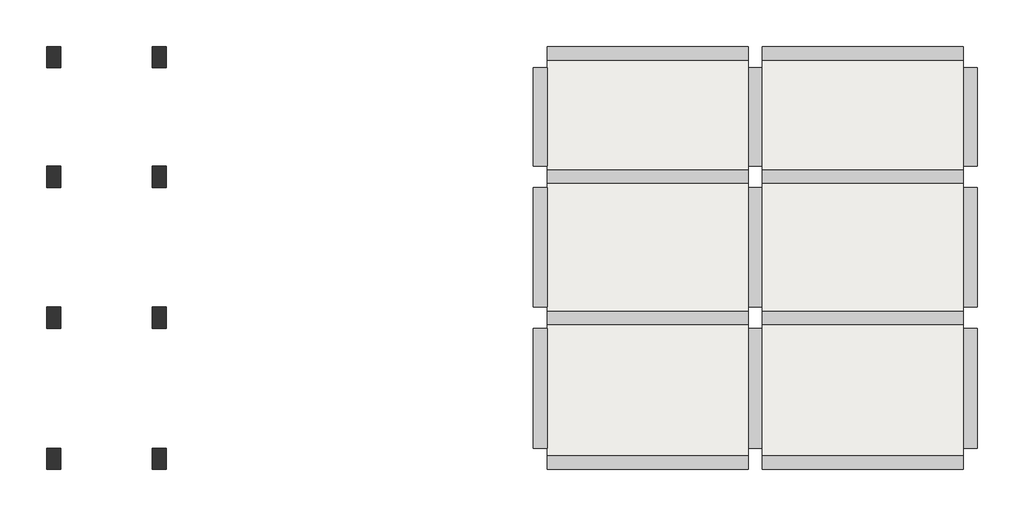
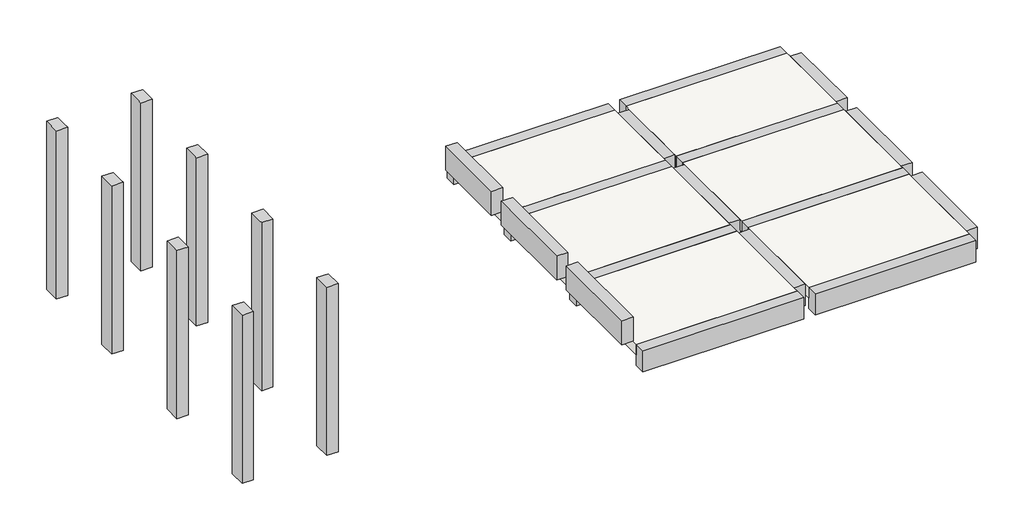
# One storey: 8 columns, 7 beams, 6 slabs.
"""IFC4 building model written with IfcOpenShell, lengths in millimetres."""

from ifc_helpers import new_model, si_unit, frame, origin, place, context, project, spatial, polyline, outline, extrude, faceted_brep, element, save

model = new_model("IFC4")

# Units and contexts
model_context = context("Model", 3, world=origin())
ifc_project = project(units=[si_unit("LENGTHUNIT", "METRE", prefix="MILLI")], contexts=[model_context])

# Site, building, storey
site = spatial("IfcSite", under=ifc_project)
building = spatial("IfcBuilding", under=site)
storey = spatial("IfcBuildingStorey", under=building, Name="BALDRAME", Elevation=1500.0)

# Beams
placement = place(None, origin())
element("IfcBeam", 1, ObjectType="TQS - Viga retangular : 20,0 x 40,0", at=placement, inside=storey, context=model_context, shape_type="Brep", body=[
    faceted_brep([(10150.0, 200.0, 1500.0), (10150.0, 0.0, 1500.0), (13000.0, 0.0, 1500.0), (13000.0, 200.0, 1500.0), (10150.0, 0.0, 1100.0), (13000.0, 0.0, 1100.0), (10150.0, 200.0, 1100.0), (13000.0, 200.0, 1100.0), (10150.0, 200.0, 1300.0), (13000.0, 200.0, 1300.0)], [[[0, 1, 2, 3]], [[1, 4, 5, 2]], [[4, 6, 7, 5]], [[6, 8, 0, 3, 9, 7]], [[1, 0, 8, 6, 4]], [[3, 2, 5, 7, 9]]]),
    faceted_brep([(7100.0, 0.0, 1500.0), (7100.0, 200.0, 1500.0), (7100.0, 200.0, 1300.0), (7100.0, 200.0, 1100.0), (7100.0, 0.0, 1100.0), (9950.0, 200.0, 1500.0), (9950.0, 0.0, 1500.0), (9950.0, 0.0, 1100.0), (9950.0, 200.0, 1100.0), (9950.0, 200.0, 1300.0)], [[[0, 1, 2, 3, 4]], [[5, 6, 7, 8, 9]], [[1, 0, 6, 5]], [[0, 4, 7, 6]], [[4, 3, 8, 7]], [[3, 2, 1, 5, 9, 8]]]),
])
element("IfcBeam", 2, ObjectType="TQS - Viga retangular : 20,0 x 40,0", at=placement, inside=storey, context=model_context, shape_type="Brep", body=[
    faceted_brep([(10150.0, 6000.0, 1500.0), (10150.0, 5800.0, 1500.0), (13000.0, 5800.0, 1500.0), (13000.0, 6000.0, 1500.0), (10150.0, 5800.0, 1300.0), (10150.0, 5800.0, 1100.0), (13000.0, 5800.0, 1100.0), (13000.0, 5800.0, 1300.0), (10150.0, 6000.0, 1100.0), (13000.0, 6000.0, 1100.0)], [[[0, 1, 2, 3]], [[1, 4, 5, 6, 7, 2]], [[5, 8, 9, 6]], [[8, 0, 3, 9]], [[1, 0, 8, 5, 4]], [[3, 2, 7, 6, 9]]]),
    faceted_brep([(7100.0, 5800.0, 1500.0), (7100.0, 6000.0, 1500.0), (7100.0, 6000.0, 1100.0), (7100.0, 5800.0, 1100.0), (7100.0, 5800.0, 1300.0), (9950.0, 6000.0, 1500.0), (9950.0, 5800.0, 1500.0), (9950.0, 5800.0, 1300.0), (9950.0, 5800.0, 1100.0), (9950.0, 6000.0, 1100.0)], [[[0, 1, 2, 3, 4]], [[5, 6, 7, 8, 9]], [[1, 0, 6, 5]], [[0, 4, 3, 8, 7, 6]], [[3, 2, 9, 8]], [[2, 1, 5, 9]]]),
])
element("IfcBeam", 3, ObjectType="TQS - Viga retangular : 20,0 x 40,0", at=placement, inside=storey, context=model_context, shape_type="SweptSolid", body=[
    extrude(outline(polyline([(13000.0, 5700.0), (13200.0, 5700.0), (13200.0, 4300.0), (13000.0, 4300.0), (13000.0, 5700.0)])), frame((0.0, 0.0, 1100.0), z_axis=(0.0, 0.0, 1.0), x_axis=(1.0, 0.0, 0.0)), (0.0, 0.0, 1.0), 400.0),
    extrude(outline(polyline([(13200.0, 300.0), (13000.0, 300.0), (13000.0, 2000.0), (13200.0, 2000.0), (13200.0, 300.0)])), frame((0.0, 0.0, 1100.0), z_axis=(0.0, 0.0, 1.0), x_axis=(1.0, 0.0, 0.0)), (0.0, 0.0, 1.0), 400.0),
    extrude(outline(polyline([(13200.0, 2300.0), (13000.0, 2300.0), (13000.0, 4000.0), (13200.0, 4000.0), (13200.0, 2300.0)])), frame((0.0, 0.0, 1100.0), z_axis=(0.0, 0.0, 1.0), x_axis=(1.0, 0.0, 0.0)), (0.0, 0.0, 1.0), 400.0),
])
element("IfcBeam", 4, ObjectType="TQS - Viga retangular : 20,0 x 40,0", at=placement, inside=storey, context=model_context, shape_type="Brep", body=[
    faceted_brep([(10150.0, 2250.0, 1500.0), (10150.0, 2050.0, 1500.0), (13000.0, 2050.0, 1500.0), (13000.0, 2250.0, 1500.0), (10150.0, 2050.0, 1300.0), (10150.0, 2050.0, 1100.0), (13000.0, 2050.0, 1100.0), (13000.0, 2050.0, 1300.0), (10150.0, 2250.0, 1100.0), (13000.0, 2250.0, 1100.0), (10150.0, 2250.0, 1300.0), (13000.0, 2250.0, 1300.0)], [[[0, 1, 2, 3]], [[1, 4, 5, 6, 7, 2]], [[5, 8, 9, 6]], [[8, 10, 0, 3, 11, 9]], [[1, 0, 10, 8, 5, 4]], [[3, 2, 7, 6, 9, 11]]]),
    faceted_brep([(7100.0, 2050.0, 1500.0), (7100.0, 2250.0, 1500.0), (7100.0, 2250.0, 1300.0), (7100.0, 2250.0, 1100.0), (7100.0, 2050.0, 1100.0), (7100.0, 2050.0, 1300.0), (9950.0, 2250.0, 1500.0), (9950.0, 2050.0, 1500.0), (9950.0, 2050.0, 1300.0), (9950.0, 2050.0, 1100.0), (9950.0, 2250.0, 1100.0), (9950.0, 2250.0, 1300.0)], [[[0, 1, 2, 3, 4, 5]], [[6, 7, 8, 9, 10, 11]], [[1, 0, 7, 6]], [[0, 5, 4, 9, 8, 7]], [[4, 3, 10, 9]], [[3, 2, 1, 6, 11, 10]]]),
])
element("IfcBeam", 5, ObjectType="TQS - Viga retangular : 20,0 x 40,0", at=placement, inside=storey, context=model_context, shape_type="Brep", body=[
    faceted_brep([(10150.0, 4255.0, 1500.0), (10150.0, 4055.0, 1500.0), (13000.0, 4055.0, 1500.0), (13000.0, 4255.0, 1500.0), (10150.0, 4055.0, 1300.0), (10150.0, 4055.0, 1100.0), (13000.0, 4055.0, 1100.0), (13000.0, 4055.0, 1300.0), (10150.0, 4255.0, 1100.0), (13000.0, 4255.0, 1100.0), (10150.0, 4255.0, 1300.0), (13000.0, 4255.0, 1300.0)], [[[0, 1, 2, 3]], [[1, 4, 5, 6, 7, 2]], [[5, 8, 9, 6]], [[8, 10, 0, 3, 11, 9]], [[1, 0, 10, 8, 5, 4]], [[3, 2, 7, 6, 9, 11]]]),
    faceted_brep([(7100.0, 4055.0, 1500.0), (7100.0, 4255.0, 1500.0), (7100.0, 4255.0, 1300.0), (7100.0, 4255.0, 1100.0), (7100.0, 4055.0, 1100.0), (7100.0, 4055.0, 1300.0), (9950.0, 4255.0, 1500.0), (9950.0, 4055.0, 1500.0), (9950.0, 4055.0, 1300.0), (9950.0, 4055.0, 1100.0), (9950.0, 4255.0, 1100.0), (9950.0, 4255.0, 1300.0)], [[[0, 1, 2, 3, 4, 5]], [[6, 7, 8, 9, 10, 11]], [[1, 0, 7, 6]], [[0, 5, 4, 9, 8, 7]], [[4, 3, 10, 9]], [[3, 2, 1, 6, 11, 10]]]),
])
element("IfcBeam", 6, ObjectType="TQS - Viga retangular : 20,0 x 40,0", at=placement, inside=storey, context=model_context, shape_type="SweptSolid", body=[
    extrude(outline(polyline([(9950.0, 5700.0), (10150.0, 5700.0), (10150.0, 4300.0), (9950.0, 4300.0), (9950.0, 5700.0)])), frame((0.0, 0.0, 1100.0), z_axis=(0.0, 0.0, 1.0), x_axis=(1.0, 0.0, 0.0)), (0.0, 0.0, 1.0), 400.0),
    extrude(outline(polyline([(10150.0, 300.0), (9950.0, 300.0), (9950.0, 2000.0), (10150.0, 2000.0), (10150.0, 300.0)])), frame((0.0, 0.0, 1100.0), z_axis=(0.0, 0.0, 1.0), x_axis=(1.0, 0.0, 0.0)), (0.0, 0.0, 1.0), 400.0),
    extrude(outline(polyline([(10150.0, 2300.0), (9950.0, 2300.0), (9950.0, 4000.0), (10150.0, 4000.0), (10150.0, 2300.0)])), frame((0.0, 0.0, 1100.0), z_axis=(0.0, 0.0, 1.0), x_axis=(1.0, 0.0, 0.0)), (0.0, 0.0, 1.0), 400.0),
])
element("IfcBeam", 7, ObjectType="TQS - Viga retangular : 20,0 x 45,0", at=placement, inside=storey, context=model_context, shape_type="SweptSolid", body=[
    extrude(outline(polyline([(6900.0, 5700.0), (7100.0, 5700.0), (7100.0, 4300.0), (6900.0, 4300.0), (6900.0, 5700.0)])), frame((0.0, 0.0, 1500.0), z_axis=(0.0, 0.0, 1.0), x_axis=(1.0, 0.0, 0.0)), (0.0, 0.0, 1.0), 450.0),
    extrude(outline(polyline([(7100.0, 300.0), (6900.0, 300.0), (6900.0, 2000.0), (7100.0, 2000.0), (7100.0, 300.0)])), frame((0.0, 0.0, 1500.0), z_axis=(0.0, 0.0, 1.0), x_axis=(1.0, 0.0, 0.0)), (0.0, 0.0, 1.0), 450.0),
    extrude(outline(polyline([(7100.0, 2300.0), (6900.0, 2300.0), (6900.0, 4000.0), (7100.0, 4000.0), (7100.0, 2300.0)])), frame((0.0, 0.0, 1500.0), z_axis=(0.0, 0.0, 1.0), x_axis=(1.0, 0.0, 0.0)), (0.0, 0.0, 1.0), 450.0),
])

# Columns
element("IfcColumn", 8, ObjectType="TQS - Pilar retangular : 20,0x30,0", at=placement, inside=storey, context=model_context, shape_type="Brep", body=[
    faceted_brep([(200.0, 300.0, 1500.0), (200.0, 0.0, 1500.0), (0.0, 0.0, 1500.0), (0.0, 300.0, 1500.0), (200.0, 300.0, 4650.0), (200.0, 200.0, 4650.0), (200.0, 0.0, 4650.0), (200.0, 0.0, 4200.0), (200.0, 300.0, 4200.0), (0.0, 0.0, 4650.0), (0.0, 300.0, 4650.0), (0.0, 300.0, 4200.0)], [[[0, 1, 2, 3]], [[4, 5, 6, 7, 1, 0, 8]], [[6, 9, 2, 1, 7]], [[9, 10, 11, 3, 2]], [[10, 4, 8, 0, 3, 11]], [[4, 10, 9, 6, 5]]]),
])
element("IfcColumn", 9, ObjectType="TQS - Pilar retangular : 20,0x30,0", at=placement, inside=storey, context=model_context, shape_type="Brep", body=[
    faceted_brep([(1700.0, 300.0, 1500.0), (1700.0, 0.0, 1500.0), (1500.0, 0.0, 1500.0), (1500.0, 300.0, 1500.0), (1700.0, 300.0, 4650.0), (1700.0, 0.0, 4650.0), (1700.0, 300.0, 4200.0), (1500.0, 0.0, 4650.0), (1500.0, 0.0, 4200.0), (1500.0, 200.0, 4650.0), (1500.0, 300.0, 4650.0), (1500.0, 300.0, 4200.0)], [[[0, 1, 2, 3]], [[4, 5, 1, 0, 6]], [[5, 7, 8, 2, 1]], [[7, 9, 10, 11, 3, 2, 8]], [[10, 4, 6, 0, 3, 11]], [[4, 10, 9, 7, 5]]]),
])
element("IfcColumn", 10, ObjectType="TQS - Pilar retangular : 20,0x30,0", at=placement, inside=storey, context=model_context, shape_type="Brep", body=[
    faceted_brep([(200.0, 2300.0, 1500.0), (200.0, 2000.0, 1500.0), (0.0, 2000.0, 1500.0), (0.0, 2300.0, 1500.0), (200.0, 2300.0, 4650.0), (200.0, 2250.0, 4650.0), (200.0, 2050.0, 4650.0), (200.0, 2000.0, 4650.0), (200.0, 2000.0, 4200.0), (200.0, 2300.0, 4200.0), (0.0, 2000.0, 4650.0), (0.0, 2000.0, 4200.0), (0.0, 2300.0, 4650.0), (0.0, 2300.0, 4200.0)], [[[0, 1, 2, 3]], [[4, 5, 6, 7, 8, 1, 0, 9]], [[7, 10, 11, 2, 1, 8]], [[10, 12, 13, 3, 2, 11]], [[12, 4, 9, 0, 3, 13]], [[4, 12, 10, 7, 6, 5]]]),
])
element("IfcColumn", 11, ObjectType="TQS - Pilar retangular : 20,0x30,0", at=placement, inside=storey, context=model_context, shape_type="Brep", body=[
    faceted_brep([(1700.0, 2300.0, 1500.0), (1700.0, 2000.0, 1500.0), (1500.0, 2000.0, 1500.0), (1500.0, 2300.0, 1500.0), (1700.0, 2300.0, 4650.0), (1700.0, 2000.0, 4650.0), (1700.0, 2000.0, 4200.0), (1700.0, 2300.0, 4200.0), (1500.0, 2000.0, 4650.0), (1500.0, 2000.0, 4200.0), (1500.0, 2050.0, 4650.0), (1500.0, 2250.0, 4650.0), (1500.0, 2300.0, 4650.0), (1500.0, 2300.0, 4200.0)], [[[0, 1, 2, 3]], [[4, 5, 6, 1, 0, 7]], [[5, 8, 9, 2, 1, 6]], [[8, 10, 11, 12, 13, 3, 2, 9]], [[12, 4, 7, 0, 3, 13]], [[4, 12, 11, 10, 8, 5]]]),
])
element("IfcColumn", 12, ObjectType="TQS - Pilar retangular : 20,0x30,0", at=placement, inside=storey, context=model_context, shape_type="Brep", body=[
    faceted_brep([(200.0, 6000.0, 1500.0), (200.0, 5700.0, 1500.0), (0.0, 5700.0, 1500.0), (0.0, 6000.0, 1500.0), (200.0, 6000.0, 4650.0), (200.0, 5800.0, 4650.0), (200.0, 5700.0, 4650.0), (200.0, 5700.0, 4200.0), (200.0, 6000.0, 4200.0), (0.0, 5700.0, 4650.0), (0.0, 5700.0, 4200.0), (0.0, 6000.0, 4650.0)], [[[0, 1, 2, 3]], [[4, 5, 6, 7, 1, 0, 8]], [[6, 9, 10, 2, 1, 7]], [[9, 11, 3, 2, 10]], [[11, 4, 8, 0, 3]], [[4, 11, 9, 6, 5]]]),
])
element("IfcColumn", 13, ObjectType="TQS - Pilar retangular : 20,0x30,0", at=placement, inside=storey, context=model_context, shape_type="Brep", body=[
    faceted_brep([(1700.0, 6000.0, 1500.0), (1700.0, 5700.0, 1500.0), (1500.0, 5700.0, 1500.0), (1500.0, 6000.0, 1500.0), (1700.0, 6000.0, 4650.0), (1700.0, 5700.0, 4650.0), (1700.0, 5700.0, 4200.0), (1500.0, 5700.0, 4650.0), (1500.0, 5700.0, 4200.0), (1500.0, 5800.0, 4650.0), (1500.0, 6000.0, 4650.0), (1500.0, 6000.0, 4200.0)], [[[0, 1, 2, 3]], [[4, 5, 6, 1, 0]], [[5, 7, 8, 2, 1, 6]], [[7, 9, 10, 11, 3, 2, 8]], [[10, 4, 0, 3, 11]], [[4, 10, 9, 7, 5]]]),
])
element("IfcColumn", 14, ObjectType="TQS - Pilar retangular : 20,0x30,0", at=placement, inside=storey, context=model_context, shape_type="Brep", body=[
    faceted_brep([(200.0, 4300.0, 1500.0), (200.0, 4000.0, 1500.0), (0.0, 4000.0, 1500.0), (0.0, 4300.0, 1500.0), (200.0, 4300.0, 4650.0), (200.0, 4250.0, 4650.0), (200.0, 4050.0, 4650.0), (200.0, 4000.0, 4650.0), (200.0, 4000.0, 4200.0), (200.0, 4300.0, 4200.0), (0.0, 4000.0, 4650.0), (0.0, 4000.0, 4200.0), (0.0, 4300.0, 4650.0), (0.0, 4300.0, 4200.0)], [[[0, 1, 2, 3]], [[4, 5, 6, 7, 8, 1, 0, 9]], [[7, 10, 11, 2, 1, 8]], [[10, 12, 13, 3, 2, 11]], [[12, 4, 9, 0, 3, 13]], [[4, 12, 10, 7, 6, 5]]]),
])
element("IfcColumn", 15, ObjectType="TQS - Pilar retangular : 20,0x30,0", at=placement, inside=storey, context=model_context, shape_type="Brep", body=[
    faceted_brep([(1700.0, 4300.0, 1500.0), (1700.0, 4000.0, 1500.0), (1500.0, 4000.0, 1500.0), (1500.0, 4300.0, 1500.0), (1700.0, 4300.0, 4650.0), (1700.0, 4000.0, 4650.0), (1700.0, 4000.0, 4200.0), (1700.0, 4300.0, 4200.0), (1500.0, 4000.0, 4650.0), (1500.0, 4000.0, 4200.0), (1500.0, 4050.0, 4650.0), (1500.0, 4250.0, 4650.0), (1500.0, 4300.0, 4650.0), (1500.0, 4300.0, 4200.0)], [[[0, 1, 2, 3]], [[4, 5, 6, 1, 0, 7]], [[5, 8, 9, 2, 1, 6]], [[8, 10, 11, 12, 13, 3, 2, 9]], [[12, 4, 7, 0, 3, 13]], [[4, 12, 11, 10, 8, 5]]]),
])

# Slabs
element("IfcSlab", 16, ObjectType="h=20", at=placement, inside=storey, context=model_context, shape_type="Brep", body=[
    faceted_brep([(9950.0, 4255.0, 1300.0), (7100.0, 4255.0, 1300.0), (7100.0, 5800.0, 1300.0), (9950.0, 5800.0, 1300.0), (9950.0, 4255.0, 1500.0), (9950.0, 4300.0, 1500.0), (9950.0, 5700.0, 1500.0), (9950.0, 5800.0, 1500.0), (7100.0, 5800.0, 1500.0), (7100.0, 4255.0, 1500.0)], [[[0, 1, 2, 3]], [[4, 5, 6, 7, 8, 9]], [[1, 0, 4, 9]], [[2, 1, 9, 8]], [[3, 2, 8, 7]], [[0, 3, 7, 6, 5, 4]]]),
])
element("IfcSlab", 17, ObjectType="h=20", at=placement, inside=storey, context=model_context, shape_type="Brep", body=[
    faceted_brep([(9950.0, 2250.0, 1300.0), (7100.0, 2250.0, 1300.0), (7100.0, 4055.0, 1300.0), (9950.0, 4055.0, 1300.0), (9950.0, 2250.0, 1500.0), (9950.0, 2300.0, 1500.0), (9950.0, 4000.0, 1500.0), (9950.0, 4055.0, 1500.0), (7100.0, 4055.0, 1500.0), (7100.0, 2250.0, 1500.0)], [[[0, 1, 2, 3]], [[4, 5, 6, 7, 8, 9]], [[1, 0, 4, 9]], [[2, 1, 9, 8]], [[3, 2, 8, 7]], [[0, 3, 7, 6, 5, 4]]]),
])
element("IfcSlab", 18, ObjectType="h=20", at=placement, inside=storey, context=model_context, shape_type="Brep", body=[
    faceted_brep([(10150.0, 5800.0, 1300.0), (13000.0, 5800.0, 1300.0), (13000.0, 4255.0, 1300.0), (10150.0, 4255.0, 1300.0), (10150.0, 5800.0, 1500.0), (10150.0, 5700.0, 1500.0), (10150.0, 4300.0, 1500.0), (10150.0, 4255.0, 1500.0), (13000.0, 4255.0, 1500.0), (13000.0, 4300.0, 1500.0), (13000.0, 5700.0, 1500.0), (13000.0, 5800.0, 1500.0)], [[[0, 1, 2, 3]], [[4, 5, 6, 7, 8, 9, 10, 11]], [[1, 0, 4, 11]], [[2, 1, 11, 10, 9, 8]], [[3, 2, 8, 7]], [[0, 3, 7, 6, 5, 4]]]),
])
element("IfcSlab", 19, ObjectType="h=20", at=placement, inside=storey, context=model_context, shape_type="Brep", body=[
    faceted_brep([(10150.0, 4055.0, 1300.0), (13000.0, 4055.0, 1300.0), (13000.0, 2250.0, 1300.0), (10150.0, 2250.0, 1300.0), (10150.0, 4055.0, 1500.0), (10150.0, 4000.0, 1500.0), (10150.0, 2300.0, 1500.0), (10150.0, 2250.0, 1500.0), (13000.0, 2250.0, 1500.0), (13000.0, 2300.0, 1500.0), (13000.0, 4000.0, 1500.0), (13000.0, 4055.0, 1500.0)], [[[0, 1, 2, 3]], [[4, 5, 6, 7, 8, 9, 10, 11]], [[1, 0, 4, 11]], [[2, 1, 11, 10, 9, 8]], [[3, 2, 8, 7]], [[0, 3, 7, 6, 5, 4]]]),
])
element("IfcSlab", 20, ObjectType="h=20", at=placement, inside=storey, context=model_context, shape_type="Brep", body=[
    faceted_brep([(9950.0, 200.0, 1300.0), (7100.0, 200.0, 1300.0), (7100.0, 2050.0, 1300.0), (9950.0, 2050.0, 1300.0), (9950.0, 200.0, 1500.0), (9950.0, 300.0, 1500.0), (9950.0, 2000.0, 1500.0), (9950.0, 2050.0, 1500.0), (7100.0, 2050.0, 1500.0), (7100.0, 200.0, 1500.0)], [[[0, 1, 2, 3]], [[4, 5, 6, 7, 8, 9]], [[1, 0, 4, 9]], [[2, 1, 9, 8]], [[3, 2, 8, 7]], [[0, 3, 7, 6, 5, 4]]]),
])
element("IfcSlab", 21, ObjectType="h=20", at=placement, inside=storey, context=model_context, shape_type="Brep", body=[
    faceted_brep([(13000.0, 200.0, 1300.0), (10150.0, 200.0, 1300.0), (10150.0, 2050.0, 1300.0), (13000.0, 2050.0, 1300.0), (13000.0, 200.0, 1500.0), (13000.0, 300.0, 1500.0), (13000.0, 2000.0, 1500.0), (13000.0, 2050.0, 1500.0), (10150.0, 2050.0, 1500.0), (10150.0, 2000.0, 1500.0), (10150.0, 300.0, 1500.0), (10150.0, 200.0, 1500.0)], [[[0, 1, 2, 3]], [[4, 5, 6, 7, 8, 9, 10, 11]], [[1, 0, 4, 11]], [[2, 1, 11, 10, 9, 8]], [[3, 2, 8, 7]], [[0, 3, 7, 6, 5, 4]]]),
])

save(model, "model.ifc")
